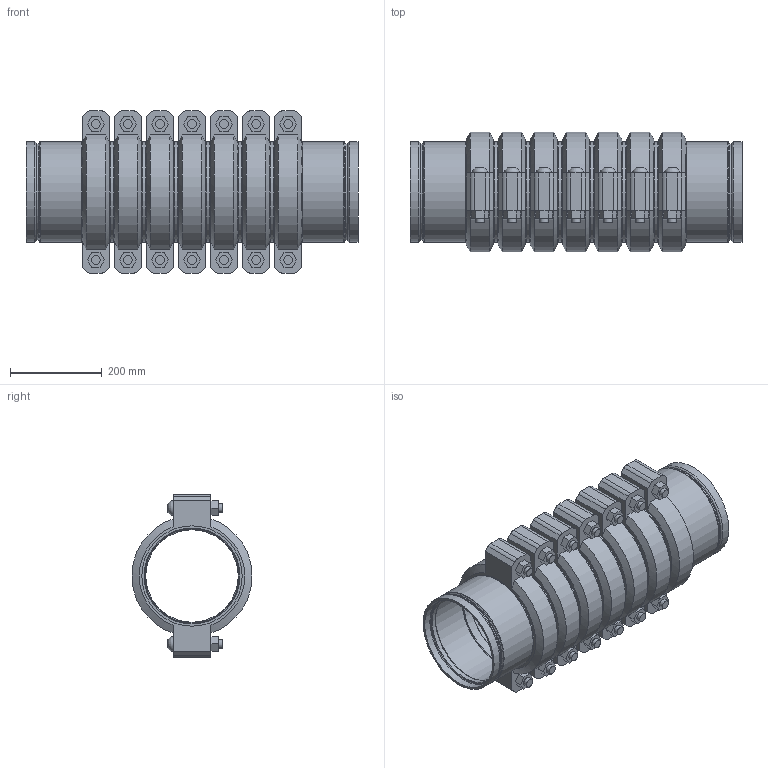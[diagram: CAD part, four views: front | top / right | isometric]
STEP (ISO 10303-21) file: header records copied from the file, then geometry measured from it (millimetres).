
FILE_DESCRIPTION(/* description */ ('VIC STRENGTHIN 100 EXPANSION JOINT 7 COUPLINGS COMPRESSED STYLE E155 (ST1)','CAx-IF Rec.Pracs.---Representation and Presentation of Product Manufacturing Information (PMI)---4.0---2014-10-13'),/* implementation_level */ '2;1');
FILE_NAME(/* name */ 'C:\Users\Vjadhav\AppData\Roaming\Autodesk\ApplicationPlugins\Victaulic.Temp\A926\Victaulic_SS-StrengThin 100_Expansion Joint_Compressed_7 Couplings_Style E155 (ST1)_8 (200).stp',/* time_stamp */ '2021-07-23T12:35:16+05:00',/* author */ ('kkamble'),/* organization */ ('Victaulic'),/* preprocessor_version */ 'ST-DEVELOPER v17.2',/* originating_system */ 'Autodesk Inventor 2019',/* authorisation */ '');
FILE_SCHEMA (('AP242_MANAGED_MODEL_BASED_3D_ENGINEERING_MIM_LF { 1 0 10303 442 1 1 4 }'));
Length unit declared in the file: inch
Products named in the file (4): E155-08.0; E494G-08.0; Nipple-08.0; 075-08.0
Assembly tree (15 placements, depth 2):
  E155-08.0
    E494G-08.0  x2
    Nipple-08.0  x6
    075-08.0  x7
Bounding box: 724.66 x 261.72 x 354.84 mm (x, y, z)
Volume: 12666780.2 mm3; surface area: 2262202.1 mm2
Topology: 15 solids, 29 shells, 513 faces, 1299 edges, 920 vertices
Faces by surface type: plane 288, cylinder 147, torus 32, cone 32, bspline 14
Full cylindrical faces by diameter (mm): 19.05 x28, 21.209 x14, 201.651 x2, 202.717 x6, 204.851 x2, 209.525 x6, 211.201 x2, 214.401 x14, 219.075 x31
Entity records: 3730 total; most frequent: DIRECTION 665, CARTESIAN_POINT 656, ORIENTED_EDGE 544, AXIS2_PLACEMENT_3D 284, EDGE_CURVE 272, VERTEX_POINT 197, CIRCLE 167, EDGE_LOOP 125
